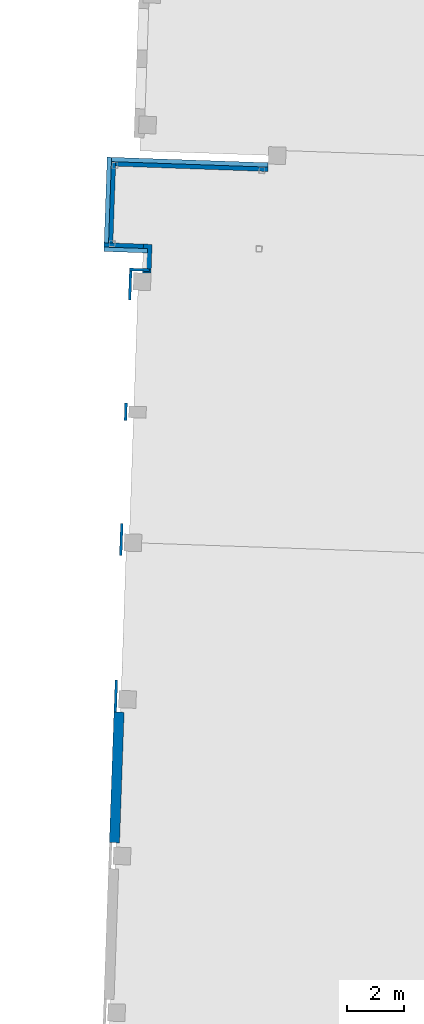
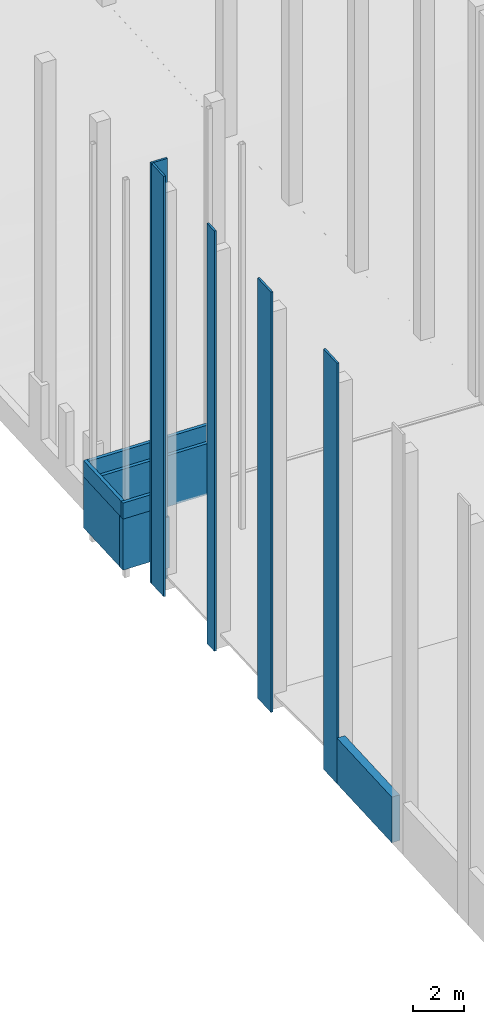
# One storey, part 32 of 44: 13 walls.
"""IFC2X3 building model written with IfcOpenShell, lengths in feet."""

from ifc_helpers import new_model, entity, si_unit, converted_unit, derived_unit, direction, frame, frame_2d, origin, place, context, subcontext, project, spatial, rectangle, extrude, material, layer, layer_set, layer_usage, type_object, element, save


model = new_model("IFC2X3")

# Units and contexts
model_context = context("Model", 3, precision=0.0001, world=origin(), true_north=direction((0.999390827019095, 0.0348994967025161)))
body_context = subcontext(model_context, "Body", "Model", "MODEL_VIEW")
ifc_project = project(units=[converted_unit("LENGTHUNIT", "FOOT", entity("IfcRatioMeasure", 0.3048), si_unit("LENGTHUNIT", "METRE"), dimensions=[1, 0, 0, 0, 0, 0, 0]), converted_unit("AREAUNIT", "SQUARE FOOT", entity("IfcRatioMeasure", 0.09290304), si_unit("AREAUNIT", "SQUARE_METRE"), dimensions=[2, 0, 0, 0, 0, 0, 0]), converted_unit("VOLUMEUNIT", "CUBIC FOOT", entity("IfcRatioMeasure", 0.028316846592), si_unit("VOLUMEUNIT", "CUBIC_METRE"), dimensions=[3, 0, 0, 0, 0, 0, 0]), converted_unit("PLANEANGLEUNIT", "DEGREE", entity("IfcRatioMeasure", 0.0174532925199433), si_unit("PLANEANGLEUNIT", "RADIAN"), dimensions=[0, 0, 0, 0, 0, 0, 0]), si_unit("MASSUNIT", "GRAM", prefix="KILO"), si_unit("TIMEUNIT", "SECOND"), si_unit("FREQUENCYUNIT", "HERTZ"), si_unit("THERMODYNAMICTEMPERATUREUNIT", "DEGREE_CELSIUS"), derived_unit("THERMALTRANSMITTANCEUNIT", [(si_unit("MASSUNIT", "GRAM", prefix="KILO"), 1), (si_unit("THERMODYNAMICTEMPERATUREUNIT", "KELVIN"), -1), (si_unit("TIMEUNIT", "SECOND"), -3)]), derived_unit("VOLUMETRICFLOWRATEUNIT", [(si_unit("LENGTHUNIT", "METRE"), 3), (si_unit("TIMEUNIT", "SECOND"), -1)]), si_unit("ELECTRICCURRENTUNIT", "AMPERE"), si_unit("ELECTRICVOLTAGEUNIT", "VOLT"), si_unit("POWERUNIT", "WATT"), si_unit("FORCEUNIT", "NEWTON"), si_unit("ILLUMINANCEUNIT", "LUX"), si_unit("LUMINOUSFLUXUNIT", "LUMEN"), si_unit("LUMINOUSINTENSITYUNIT", "CANDELA"), derived_unit("USERDEFINED", [(si_unit("MASSUNIT", "GRAM", prefix="KILO"), -1), (si_unit("LENGTHUNIT", "METRE"), -2), (si_unit("TIMEUNIT", "SECOND"), 3), (si_unit("LUMINOUSFLUXUNIT", "LUMEN"), 1)]), derived_unit("LINEARVELOCITYUNIT", [(si_unit("LENGTHUNIT", "METRE"), 1), (si_unit("TIMEUNIT", "SECOND"), -1)]), si_unit("PRESSUREUNIT", "PASCAL"), derived_unit("USERDEFINED", [(si_unit("LENGTHUNIT", "METRE"), -2), (si_unit("MASSUNIT", "GRAM", prefix="KILO"), 1), (si_unit("TIMEUNIT", "SECOND"), -2)])], contexts=[model_context])

# Site, building, storey
site_placement = place(None, frame((892.518771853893, 322.38689265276, 0.00393700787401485), z_axis=(0.0, 0.0, 1.0), x_axis=(0.0348994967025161, 0.999390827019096, 0.0)))
site = spatial("IfcSite", under=ifc_project, at=site_placement, Name="Default", CompositionType="ELEMENT")
building_placement = place(site_placement, origin())
building = spatial("IfcBuilding", under=site, at=building_placement, CompositionType="ELEMENT")
storey_placement = place(building_placement, frame((0.0, 0.0, 544.75)))
storey = spatial("IfcBuildingStorey", under=building, at=storey_placement, Name="Exist Garage - Ground Level", CompositionType="ELEMENT", Elevation=544.75)

# Walls
ifc_material_1 = material(Name="Masonry - Brick")
ifc_layer_1 = layer(ifc_material_1, 0.302083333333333)
ifc_layer_set_1 = layer_set([ifc_layer_1], Name="Basic Wall:(Existing) Exterior - Brick Veneer 3 5/8\"")
ifc_layer_usage_1 = layer_usage(ifc_layer_set_1, "AXIS2", "POSITIVE", -0.151041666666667)
wall_type_1 = type_object("IfcWallType", Name="Basic Wall:(Existing) Exterior - Brick Veneer 3 5/8\"", PredefinedType="STANDARD", material=ifc_layer_set_1)
wall_1_placement = place(storey_placement, frame((89.2762551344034, 455.930620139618, 0.0), z_axis=(0.0, 0.0, 1.0), x_axis=(0.0, 1.0, 0.0)))
element("IfcWallStandardCase", 1, at=wall_1_placement, inside=storey, type_object=wall_type_1, material=ifc_layer_usage_1, Name="Basic Wall:(Existing) Exterior - Brick Veneer 3 5/8\"", ObjectType="Basic Wall:(Existing) Exterior - Brick Veneer 3 5/8\"", context=body_context, shape_type="SweptSolid", body=[
    extrude(rectangle(XDim=2.3333333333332, YDim=0.302083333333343, at=frame_2d((1.1666666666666, 0.0), x_axis=(-1.0, 0.0))), origin(), (0.0, 0.0, 1.0), 65.8125),
])
ifc_layer_usage_2 = layer_usage(ifc_layer_set_1, "AXIS2", "POSITIVE", -0.151041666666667)
wall_2_placement = place(storey_placement, frame((89.1252134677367, 458.112911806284, 0.0), z_axis=(0.0, 0.0, 1.0), x_axis=(-1.0, 0.0, 0.0)))
element("IfcWallStandardCase", 2, at=wall_2_placement, inside=storey, type_object=wall_type_1, material=ifc_layer_usage_2, Name="Basic Wall:(Existing) Exterior - Brick Veneer 3 5/8\"", ObjectType="Basic Wall:(Existing) Exterior - Brick Veneer 3 5/8\"", context=body_context, shape_type="SweptSolid", body=[
    extrude(rectangle(XDim=3.36458333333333, YDim=0.302083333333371, at=frame_2d((1.68229166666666, 0.0), x_axis=(-1.0, 0.0))), origin(), (0.0, 0.0, 1.0), 65.8125),
])
ifc_layer_usage_3 = layer_usage(ifc_layer_set_1, "AXIS2", "NEGATIVE", 0.151041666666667)
wall_3_placement = place(storey_placement, frame((71.9272968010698, 458.112911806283, 0.0)))
element("IfcWallStandardCase", 3, at=wall_3_placement, inside=storey, type_object=wall_type_1, material=ifc_layer_usage_3, Name="Basic Wall:(Existing) Exterior - Brick Veneer 3 5/8\"", ObjectType="Basic Wall:(Existing) Exterior - Brick Veneer 3 5/8\"", context=body_context, shape_type="SweptSolid", body=[
    extrude(rectangle(XDim=1.99999999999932, YDim=0.302083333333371, at=frame_2d((0.999999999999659, 0.0), x_axis=(-1.0, 0.0))), origin(), (0.0, 0.0, 1.0), 65.8125),
])
ifc_layer_usage_4 = layer_usage(ifc_layer_set_1, "AXIS2", "NEGATIVE", 0.151041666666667)
wall_4_placement = place(storey_placement, frame((56.4272542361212, 458.112911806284, 0.0)))
element("IfcWallStandardCase", 4, at=wall_4_placement, inside=storey, type_object=wall_type_1, material=ifc_layer_usage_4, Name="Basic Wall:(Existing) Exterior - Brick Veneer 3 5/8\"", ObjectType="Basic Wall:(Existing) Exterior - Brick Veneer 3 5/8\"", context=body_context, shape_type="SweptSolid", body=[
    extrude(rectangle(XDim=3.66670923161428, YDim=0.302083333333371, at=frame_2d((1.83335461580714, 0.0), x_axis=(-1.0, 0.0))), origin(), (0.0, 0.0, 1.0), 65.8125),
])
ifc_layer_usage_5 = layer_usage(ifc_layer_set_1, "AXIS2", "NEGATIVE", 0.151041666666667)
wall_5_placement = place(storey_placement, frame((38.4272542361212, 458.112911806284, 0.0)))
element("IfcWallStandardCase", 5, at=wall_5_placement, inside=storey, type_object=wall_type_1, material=ifc_layer_usage_5, Name="Basic Wall:(Existing) Exterior - Brick Veneer 3 5/8\"", ObjectType="Basic Wall:(Existing) Exterior - Brick Veneer 3 5/8\"", context=body_context, shape_type="SweptSolid", body=[
    extrude(rectangle(XDim=3.66670923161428, YDim=0.302083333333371, at=frame_2d((1.83335461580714, 0.0), x_axis=(-1.0, 0.0))), origin(), (0.0, 0.0, 1.0), 65.8125),
])
ifc_layer_2 = layer(ifc_material_1, 0.302083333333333)
ifc_material_2 = material(Name="Misc. Air Layers - Air Space")
ifc_layer_3 = layer(ifc_material_2, 0.197916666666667)
ifc_material_3 = material(Name="Concrete - Cast-in-Place Concrete_hatch surface")
ifc_layer_4 = layer(ifc_material_3, 0.666666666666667)
ifc_layer_set_2 = layer_set([ifc_layer_2, ifc_layer_3, ifc_layer_4], Name="Basic Wall:(existing)Exterior - Brick on Conc - 1'-2\"(2\" air space)")
ifc_layer_usage_6 = layer_usage(ifc_layer_set_2, "AXIS2", "POSITIVE", -0.583333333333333)
wall_type_2 = type_object("IfcWallType", Name="Basic Wall:(existing)Exterior - Brick on Conc - 1'-2\"(2\" air space)", PredefinedType="STANDARD", material=ifc_layer_set_2)
wall_6_placement = place(storey_placement, frame((38.4272542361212, 457.680620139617, 0.0), z_axis=(0.0, 0.0, 1.0), x_axis=(-1.0, 0.0, 0.0)))
element("IfcWallStandardCase", 6, at=wall_6_placement, inside=storey, type_object=wall_type_2, material=ifc_layer_usage_6, Name="Basic Wall:(existing)Exterior - Brick on Conc - 1'-2\"(2\" air space)", ObjectType="Basic Wall:(existing)Exterior - Brick on Conc - 1'-2\"(2\" air space)", context=body_context, shape_type="SweptSolid", body=[
    extrude(rectangle(XDim=15.0, YDim=1.16666666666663, at=frame_2d((7.49999999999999, -1.43773881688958e-14), x_axis=(-1.0, 0.0))), origin(), (0.0, 0.0, 1.0), 7.13997395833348),
])
ifc_layer_5 = layer(ifc_material_3, 0.5)
ifc_layer_set_3 = layer_set([ifc_layer_5], Name="Basic Wall:(existing)Exterior - 6\" Conc")
ifc_layer_usage_7 = layer_usage(ifc_layer_set_3, "AXIS2", "NEGATIVE", 0.25)
wall_type_3 = type_object("IfcWallType", Name="Basic Wall:(existing)Exterior - 6\" Conc", PredefinedType="STANDARD", material=ifc_layer_set_3)
wall_7_placement = place(storey_placement, frame((91.4897968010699, 456.26395347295, 9.75), z_axis=(0.0, 0.0, 1.0), x_axis=(0.0, 1.0, 0.0)))
element("IfcWallStandardCase", 7, at=wall_7_placement, inside=storey, type_object=wall_type_3, material=ifc_layer_usage_7, Name="Basic Wall:(existing)Exterior - 6\" Conc", ObjectType="Basic Wall:(existing)Exterior - 6\" Conc", context=body_context, shape_type="SweptSolid", body=[
    extrude(rectangle(XDim=5.0, YDim=0.5, at=frame_2d((2.5, 7.7715611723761e-16), x_axis=(-1.0, 0.0))), origin(), (0.0, 0.0, 1.0), 2.5),
])
ifc_layer_usage_8 = layer_usage(ifc_layer_set_3, "AXIS2", "NEGATIVE", 0.25)
wall_8_placement = place(storey_placement, frame((91.7397968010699, 461.01395347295, 9.75)))
element("IfcWallStandardCase", 8, at=wall_8_placement, inside=storey, type_object=wall_type_3, material=ifc_layer_usage_8, Name="Basic Wall:(existing)Exterior - 6\" Conc", ObjectType="Basic Wall:(existing)Exterior - 6\" Conc", context=body_context, shape_type="SweptSolid", body=[
    extrude(rectangle(XDim=10.3333333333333, YDim=0.5, at=frame_2d((5.16666666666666, -1.31838984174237e-15), x_axis=(-1.0, 0.0))), origin(), (0.0, 0.0, 1.0), 2.5),
])
ifc_layer_usage_9 = layer_usage(ifc_layer_set_3, "AXIS2", "NEGATIVE", 0.25)
wall_9_placement = place(storey_placement, frame((101.823130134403, 460.76395347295, 9.75), z_axis=(0.0, 0.0, 1.0), x_axis=(0.0, -1.0, 0.0)))
element("IfcWallStandardCase", 9, at=wall_9_placement, inside=storey, type_object=wall_type_3, material=ifc_layer_usage_9, Name="Basic Wall:(existing)Exterior - 6\" Conc", ObjectType="Basic Wall:(existing)Exterior - 6\" Conc", context=body_context, shape_type="SweptSolid", body=[
    extrude(rectangle(XDim=18.0007708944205, YDim=0.5, at=frame_2d((9.00038544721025, -3.88578058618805e-16), x_axis=(-1.0, 0.0))), origin(), (0.0, 0.0, 1.0), 2.5),
])
ifc_layer_6 = layer(ifc_material_3, 1.0)
ifc_layer_set_4 = layer_set([ifc_layer_6], Name="Basic Wall:(existing)Exterior - 12\" Conc")
ifc_layer_usage_10 = layer_usage(ifc_layer_set_4, "AXIS2", "POSITIVE", -0.5)
wall_type_4 = type_object("IfcWallType", Name="Basic Wall:(existing)Exterior - 12\" Conc", PredefinedType="STANDARD", material=ifc_layer_set_4)
wall_10_placement = place(storey_placement, frame((88.9272968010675, 456.26395347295, 1.75)))
element("IfcWallStandardCase", 10, at=wall_10_placement, inside=storey, type_object=wall_type_4, material=ifc_layer_usage_10, Name="Basic Wall:(existing)Exterior - 12\" Conc", ObjectType="Basic Wall:(existing)Exterior - 12\" Conc", context=body_context, shape_type="SweptSolid", body=[
    extrude(rectangle(XDim=3.3125000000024, YDim=1.0, at=frame_2d((1.6562500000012, 0.0), x_axis=(-1.0, 0.0))), origin(), (0.0, 0.0, 1.0), 8.0),
])
ifc_layer_usage_11 = layer_usage(ifc_layer_set_4, "AXIS2", "NEGATIVE", 0.5)
wall_11_placement = place(storey_placement, frame((91.7397968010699, 456.76395347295, 1.75), z_axis=(0.0, 0.0, 1.0), x_axis=(0.0, 1.0, 0.0)))
element("IfcWallStandardCase", 11, at=wall_11_placement, inside=storey, type_object=wall_type_4, material=ifc_layer_usage_11, Name="Basic Wall:(existing)Exterior - 12\" Conc", ObjectType="Basic Wall:(existing)Exterior - 12\" Conc", context=body_context, shape_type="SweptSolid", body=[
    extrude(rectangle(XDim=4.49999999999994, YDim=1.0, at=frame_2d((2.24999999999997, -1.30451205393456e-15), x_axis=(-1.0, 0.0))), origin(), (0.0, 0.0, 1.0), 8.0),
])
ifc_layer_usage_12 = layer_usage(ifc_layer_set_4, "AXIS2", "NEGATIVE", 0.5)
wall_12_placement = place(storey_placement, frame((92.2397968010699, 460.76395347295, 1.75)))
element("IfcWallStandardCase", 12, at=wall_12_placement, inside=storey, type_object=wall_type_4, material=ifc_layer_usage_12, Name="Basic Wall:(existing)Exterior - 12\" Conc", ObjectType="Basic Wall:(existing)Exterior - 12\" Conc", context=body_context, shape_type="SweptSolid", body=[
    extrude(rectangle(XDim=9.83333333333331, YDim=1.0, at=frame_2d((4.91666666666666, -2.63677968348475e-15), x_axis=(-1.0, 0.0))), origin(), (0.0, 0.0, 1.0), 8.0),
])
ifc_layer_usage_13 = layer_usage(ifc_layer_set_4, "AXIS2", "NEGATIVE", 0.5)
wall_13_placement = place(storey_placement, frame((101.573130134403, 460.26395347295, 1.75), z_axis=(0.0, 0.0, 1.0), x_axis=(0.0, -1.0, 0.0)))
element("IfcWallStandardCase", 13, at=wall_13_placement, inside=storey, type_object=wall_type_4, material=ifc_layer_usage_13, Name="Basic Wall:(existing)Exterior - 12\" Conc", ObjectType="Basic Wall:(existing)Exterior - 12\" Conc", context=body_context, shape_type="SweptSolid", body=[
    extrude(rectangle(XDim=17.5, YDim=1.0, at=frame_2d((8.75, -7.7715611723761e-16), x_axis=(-1.0, 0.0))), origin(), (0.0, 0.0, 1.0), 8.0),
])

save(model, "model.ifc")
